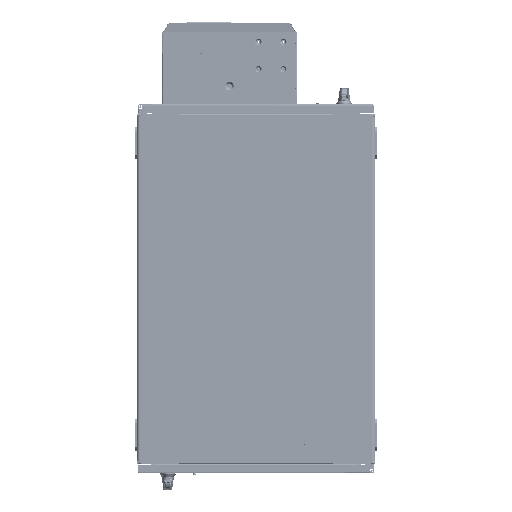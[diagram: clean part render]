
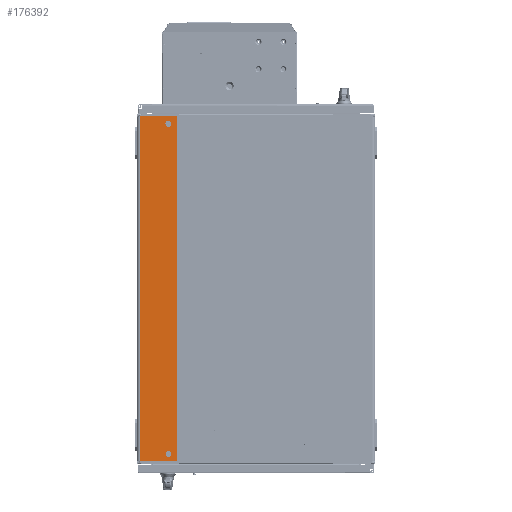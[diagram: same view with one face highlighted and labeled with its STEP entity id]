
A CAD part, front view. The second image highlights one B-rep face of the part: STEP entity #176392.
In plain terms, the highlighted planar face has unit normal (0, -1, 0).
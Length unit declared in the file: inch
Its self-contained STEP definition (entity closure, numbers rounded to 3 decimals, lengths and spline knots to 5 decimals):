
#1841 = EDGE_CURVE ( 'NONE', #131701, #271412, #6668, .T. ) ;
#6668 = CIRCLE ( 'NONE', #520389, 0.375 ) ;
#11674 = FACE_OUTER_BOUND ( 'NONE', #267734, .T. ) ;
#28609 = DIRECTION ( 'NONE',  ( 1., 0., 0. ) ) ;
#38295 = DIRECTION ( 'NONE',  ( 0., 0., -1. ) ) ;
#49779 = ORIENTED_EDGE ( 'NONE', *, *, #290244, .T. ) ;
#53800 = DIRECTION ( 'NONE',  ( 0., -1., 0. ) ) ;
#55530 = VERTEX_POINT ( 'NONE', #231921 ) ;
#56440 = DIRECTION ( 'NONE',  ( 0., 0., -1. ) ) ;
#67614 = DIRECTION ( 'NONE',  ( 0., -1., 0. ) ) ;
#73793 = CARTESIAN_POINT ( 'NONE',  ( 4.875, -2.75, 21.687 ) ) ;
#79206 = CARTESIAN_POINT ( 'NONE',  ( 3.812, -2.75, -20.75 ) ) ;
#97773 = CARTESIAN_POINT ( 'NONE',  ( 3.812, -2.75, 20.75 ) ) ;
#101439 = CIRCLE ( 'NONE', #345425, 0.375 ) ;
#102712 = CARTESIAN_POINT ( 'NONE',  ( 3.812, -2.75, -20.75 ) ) ;
#111810 = CARTESIAN_POINT ( 'NONE',  ( 0.22, -2.75, -21.67993 ) ) ;
#117421 = LINE ( 'NONE', #125502, #224720 ) ;
#122028 = ORIENTED_EDGE ( 'NONE', *, *, #362149, .F. ) ;
#125502 = CARTESIAN_POINT ( 'NONE',  ( -43.39657, -2.75, -21.67993 ) ) ;
#129949 = CARTESIAN_POINT ( 'NONE',  ( 3.812, -2.75, -21.125 ) ) ;
#130237 = EDGE_CURVE ( 'NONE', #248718, #285160, #101439, .T. ) ;
#131701 = VERTEX_POINT ( 'NONE', #129949 ) ;
#139757 = DIRECTION ( 'NONE',  ( 0., 0., 1. ) ) ;
#156257 = CARTESIAN_POINT ( 'NONE',  ( 4.875, -2.75, 21.67993 ) ) ;
#171201 = DIRECTION ( 'NONE',  ( 0., 0., -1. ) ) ;
#175789 = EDGE_LOOP ( 'NONE', ( #452021, #375495 ) ) ;
#176392 = ADVANCED_FACE ( 'NONE', ( #426086, #218909, #11674 ), #510628, .F. ) ;
#216725 = EDGE_CURVE ( 'NONE', #55530, #361626, #524870, .T. ) ;
#218909 = FACE_BOUND ( 'NONE', #277206, .T. ) ;
#224720 = VECTOR ( 'NONE', #248224, 39.37008 ) ;
#231921 = CARTESIAN_POINT ( 'NONE',  ( 0.22, -2.75, 21.67993 ) ) ;
#240299 = AXIS2_PLACEMENT_3D ( 'NONE', #303362, #306041, #139757 ) ;
#243954 = CARTESIAN_POINT ( 'NONE',  ( -43.40308, -2.75, 21.67993 ) ) ;
#248224 = DIRECTION ( 'NONE',  ( 1., 0., 0. ) ) ;
#248718 = VERTEX_POINT ( 'NONE', #372650 ) ;
#267734 = EDGE_LOOP ( 'NONE', ( #49779, #442747, #122028, #286196 ) ) ;
#269031 = EDGE_CURVE ( 'NONE', #285160, #248718, #305463, .T. ) ;
#271412 = VERTEX_POINT ( 'NONE', #391807 ) ;
#277206 = EDGE_LOOP ( 'NONE', ( #294645, #450729 ) ) ;
#283046 = CARTESIAN_POINT ( 'NONE',  ( 0.22, -2.75, 21.687 ) ) ;
#285160 = VERTEX_POINT ( 'NONE', #370912 ) ;
#286196 = ORIENTED_EDGE ( 'NONE', *, *, #216725, .F. ) ;
#287745 = VERTEX_POINT ( 'NONE', #361264 ) ;
#289910 = EDGE_CURVE ( 'NONE', #336872, #287745, #117421, .T. ) ;
#290244 = EDGE_CURVE ( 'NONE', #55530, #336872, #367547, .T. ) ;
#294645 = ORIENTED_EDGE ( 'NONE', *, *, #130237, .F. ) ;
#303362 = CARTESIAN_POINT ( 'NONE',  ( 0., -2.75, 21.687 ) ) ;
#305463 = CIRCLE ( 'NONE', #322998, 0.375 ) ;
#306041 = DIRECTION ( 'NONE',  ( 0., 1., 0. ) ) ;
#322998 = AXIS2_PLACEMENT_3D ( 'NONE', #97773, #67614, #389453 ) ;
#336872 = VERTEX_POINT ( 'NONE', #111810 ) ;
#345425 = AXIS2_PLACEMENT_3D ( 'NONE', #501100, #53800, #171201 ) ;
#345952 = VECTOR ( 'NONE', #28609, 39.37008 ) ;
#361264 = CARTESIAN_POINT ( 'NONE',  ( 4.875, -2.75, -21.67993 ) ) ;
#361626 = VERTEX_POINT ( 'NONE', #156257 ) ;
#362149 = EDGE_CURVE ( 'NONE', #361626, #287745, #529112, .T. ) ;
#367547 = LINE ( 'NONE', #283046, #416566 ) ;
#370912 = CARTESIAN_POINT ( 'NONE',  ( 3.812, -2.75, 21.125 ) ) ;
#372650 = CARTESIAN_POINT ( 'NONE',  ( 3.812, -2.75, 20.375 ) ) ;
#375495 = ORIENTED_EDGE ( 'NONE', *, *, #527135, .F. ) ;
#389453 = DIRECTION ( 'NONE',  ( 0., 0., -1. ) ) ;
#391807 = CARTESIAN_POINT ( 'NONE',  ( 3.812, -2.75, -20.375 ) ) ;
#394116 = CIRCLE ( 'NONE', #533485, 0.375 ) ;
#416566 = VECTOR ( 'NONE', #492976, 39.37008 ) ;
#426086 = FACE_BOUND ( 'NONE', #175789, .T. ) ;
#442747 = ORIENTED_EDGE ( 'NONE', *, *, #289910, .T. ) ;
#450729 = ORIENTED_EDGE ( 'NONE', *, *, #269031, .F. ) ;
#452021 = ORIENTED_EDGE ( 'NONE', *, *, #1841, .F. ) ;
#485552 = DIRECTION ( 'NONE',  ( 0., -1., 0. ) ) ;
#488200 = DIRECTION ( 'NONE',  ( 0., 0., -1. ) ) ;
#492976 = DIRECTION ( 'NONE',  ( 0., 0., -1. ) ) ;
#501100 = CARTESIAN_POINT ( 'NONE',  ( 3.812, -2.75, 20.75 ) ) ;
#509429 = VECTOR ( 'NONE', #488200, 39.37008 ) ;
#510628 = PLANE ( 'NONE',  #240299 ) ;
#511766 = DIRECTION ( 'NONE',  ( 0., -1., 0. ) ) ;
#520389 = AXIS2_PLACEMENT_3D ( 'NONE', #79206, #485552, #38295 ) ;
#524870 = LINE ( 'NONE', #243954, #345952 ) ;
#527135 = EDGE_CURVE ( 'NONE', #271412, #131701, #394116, .T. ) ;
#529112 = LINE ( 'NONE', #73793, #509429 ) ;
#533485 = AXIS2_PLACEMENT_3D ( 'NONE', #102712, #511766, #56440 ) ;
